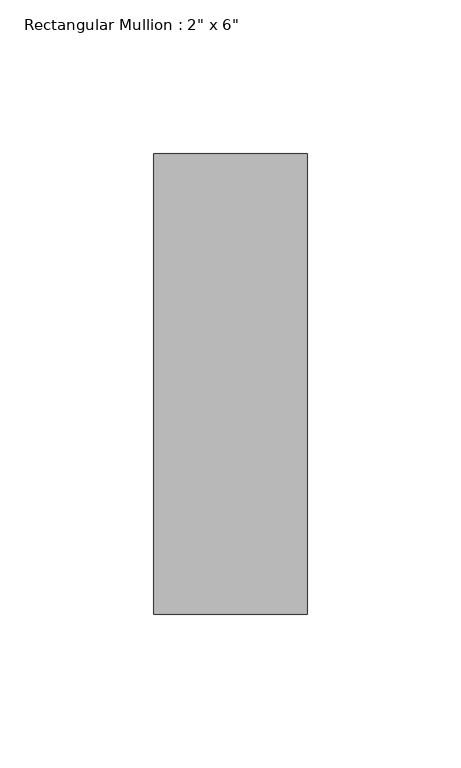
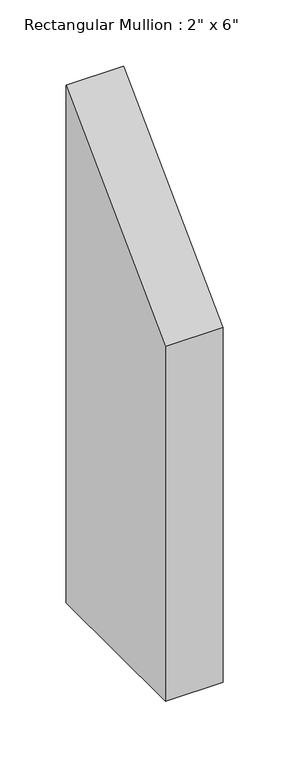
"""IFC4 building model written with IfcOpenShell, lengths in millimetres: member geometry."""

from ifc_helpers import new_model, si_unit, frame, origin, place, context, project, spatial, polyline, outline, extrude, source, transform, mapped, element, save


def member_83bd89b1(model_context):
    return source(origin(), model_context, "Body", "SweptSolid", [
        extrude(outline(polyline([(-150.0, -150.0), (0.0, 0.0), (0.0, -476.9999996), (-150.0, -476.9999996), (-150.0, -150.0)])), frame((-50.0, 0.0, 0.0), z_axis=(1.0, 0.0, 0.0), x_axis=(0.0, 1.0, 0.0)), (0.0, 0.0, 1.0), 50.0),
    ])


if __name__ == "__main__":
    model = new_model("IFC4")
    model_context = context("Model", 3, world=origin())
    ifc_project = project(units=[si_unit("LENGTHUNIT", "METRE", prefix="MILLI")], contexts=[model_context])
    site = spatial("IfcSite", under=ifc_project)
    building = spatial("IfcBuilding", under=site)
    placement = place(None, origin())
    member_shape = member_83bd89b1(model_context)
    element("IfcMember", 1, ObjectType="Rectangular Mullion : 2\" x 6\"", at=placement, inside=building, context=model_context, shape_type="MappedRepresentation", body=[
        mapped(member_shape, transform((0.0, 0.0, 0.0), x_axis=(1.0, 0.0, 0.0), y_axis=(0.0, 1.0, 0.0), z_axis=(0.0, 0.0, 1.0))),
    ])
    save(model, "model.ifc")
